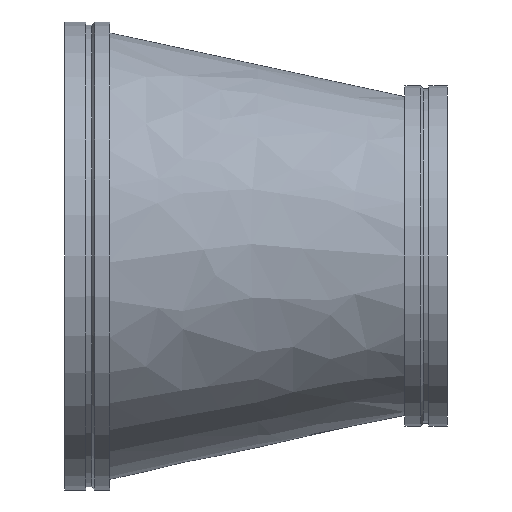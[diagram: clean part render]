
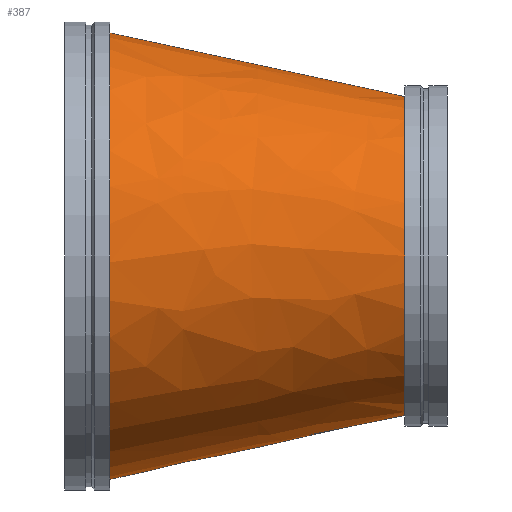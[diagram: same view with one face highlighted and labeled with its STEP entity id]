
A CAD part, front view. The second image highlights one B-rep face of the part: STEP entity #387.
In plain terms, the highlighted free-form (B-spline) face has degree [1, 2] with [2, 9] control points.
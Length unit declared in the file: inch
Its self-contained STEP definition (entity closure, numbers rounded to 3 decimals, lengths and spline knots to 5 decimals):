
#46=B_SPLINE_CURVE_WITH_KNOTS('',1,(#747,#748),.UNSPECIFIED.,.F.,.F.,(2,
2),(-1.38689,-0.00886),.UNSPECIFIED.);
#48=(
BOUNDED_SURFACE()
B_SPLINE_SURFACE(1,2,((#729,#730,#731,#732,#733,#734,#735,#736,#737),(#738,
#739,#740,#741,#742,#743,#744,#745,#746)),.UNSPECIFIED.,.F.,.T.,.F.)
B_SPLINE_SURFACE_WITH_KNOTS((2,2),(3,2,2,2,3),(-0.20696,1.52838),
(-3.14159,-1.5708,0.,1.5708,3.14159),
 .UNSPECIFIED.)
GEOMETRIC_REPRESENTATION_ITEM()
RATIONAL_B_SPLINE_SURFACE(((1.,0.707,1.,0.707,1.,
0.707,1.,0.707,1.),(1.,0.707,1.,0.707,
1.,0.707,1.,0.707,1.)))
REPRESENTATION_ITEM('')
SURFACE()
);
#98=FACE_OUTER_BOUND('',#120,.T.);
#120=EDGE_LOOP('',(#321,#322,#323,#324,#325,#326));
#129=CIRCLE('',#415,15.);
#130=CIRCLE('',#416,15.);
#153=CIRCLE('',#450,21.);
#154=CIRCLE('',#451,21.);
#166=VERTEX_POINT('',#628);
#167=VERTEX_POINT('',#629);
#190=VERTEX_POINT('',#695);
#191=VERTEX_POINT('',#696);
#203=EDGE_CURVE('',#166,#167,#129,.T.);
#204=EDGE_CURVE('',#167,#166,#130,.T.);
#235=EDGE_CURVE('',#190,#191,#153,.T.);
#236=EDGE_CURVE('',#191,#190,#154,.T.);
#243=EDGE_CURVE('',#167,#191,#46,.T.);
#321=ORIENTED_EDGE('',*,*,#203,.T.);
#322=ORIENTED_EDGE('',*,*,#243,.T.);
#323=ORIENTED_EDGE('',*,*,#236,.T.);
#324=ORIENTED_EDGE('',*,*,#235,.T.);
#325=ORIENTED_EDGE('',*,*,#243,.F.);
#326=ORIENTED_EDGE('',*,*,#204,.T.);
#387=ADVANCED_FACE('',(#98),#48,.F.);
#415=AXIS2_PLACEMENT_3D('',#630,#486,#487);
#416=AXIS2_PLACEMENT_3D('',#631,#488,#489);
#450=AXIS2_PLACEMENT_3D('',#697,#564,#565);
#451=AXIS2_PLACEMENT_3D('',#698,#566,#567);
#486=DIRECTION('center_axis',(-1.,0.,0.));
#487=DIRECTION('ref_axis',(0.,-1.,0.));
#488=DIRECTION('center_axis',(-1.,0.,0.));
#489=DIRECTION('ref_axis',(0.,-1.,0.));
#564=DIRECTION('center_axis',(1.,0.,0.));
#565=DIRECTION('ref_axis',(0.,1.,0.));
#566=DIRECTION('center_axis',(1.,0.,0.));
#567=DIRECTION('ref_axis',(0.,1.,0.));
#628=CARTESIAN_POINT('',(32.,-21.,0.));
#629=CARTESIAN_POINT('',(32.,-6.64246,14.98624));
#630=CARTESIAN_POINT('Origin',(32.,-6.,0.));
#631=CARTESIAN_POINT('Origin',(32.,-6.,0.));
#695=CARTESIAN_POINT('',(4.25,21.,0.));
#696=CARTESIAN_POINT('',(4.25,-0.89944,20.98073));
#697=CARTESIAN_POINT('Origin',(4.25,0.,0.));
#698=CARTESIAN_POINT('Origin',(4.25,0.,0.));
#729=CARTESIAN_POINT('Ctrl Pts',(-0.09607,0.,
21.91956));
#730=CARTESIAN_POINT('Ctrl Pts',(-4.44213,-21.,21.91956));
#731=CARTESIAN_POINT('Ctrl Pts',(-4.44213,-21.,0.));
#732=CARTESIAN_POINT('Ctrl Pts',(-4.44213,-21.,-21.91956));
#733=CARTESIAN_POINT('Ctrl Pts',(-0.09607,0.,
-21.91956));
#734=CARTESIAN_POINT('Ctrl Pts',(4.25,21.,-21.91956));
#735=CARTESIAN_POINT('Ctrl Pts',(4.25,21.,0.));
#736=CARTESIAN_POINT('Ctrl Pts',(4.25,21.,21.91956));
#737=CARTESIAN_POINT('Ctrl Pts',(-0.09607,0.,
21.91956));
#738=CARTESIAN_POINT('Ctrl Pts',(34.84933,-7.23214,14.37073));
#739=CARTESIAN_POINT('Ctrl Pts',(32.,-21.,14.37073));
#740=CARTESIAN_POINT('Ctrl Pts',(32.,-21.,0.));
#741=CARTESIAN_POINT('Ctrl Pts',(32.,-21.,-14.37073));
#742=CARTESIAN_POINT('Ctrl Pts',(34.84933,-7.23214,-14.37073));
#743=CARTESIAN_POINT('Ctrl Pts',(37.69867,6.53571,-14.37073));
#744=CARTESIAN_POINT('Ctrl Pts',(37.69867,6.53571,0.));
#745=CARTESIAN_POINT('Ctrl Pts',(37.69867,6.53571,14.37073));
#746=CARTESIAN_POINT('Ctrl Pts',(34.84933,-7.23214,14.37073));
#747=CARTESIAN_POINT('Ctrl Pts',(32.,-6.64246,14.98624));
#748=CARTESIAN_POINT('Ctrl Pts',(4.25,-0.89944,20.98073));
